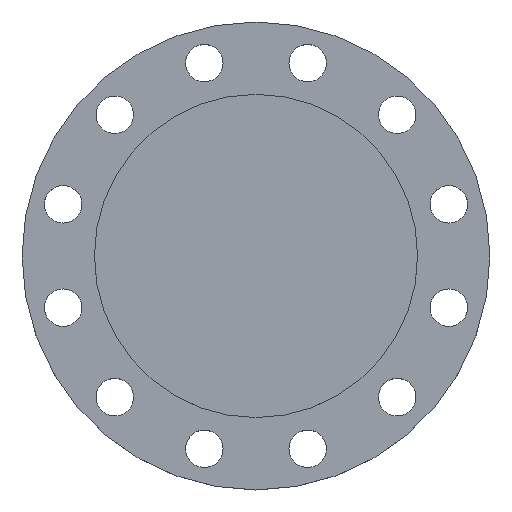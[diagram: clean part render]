
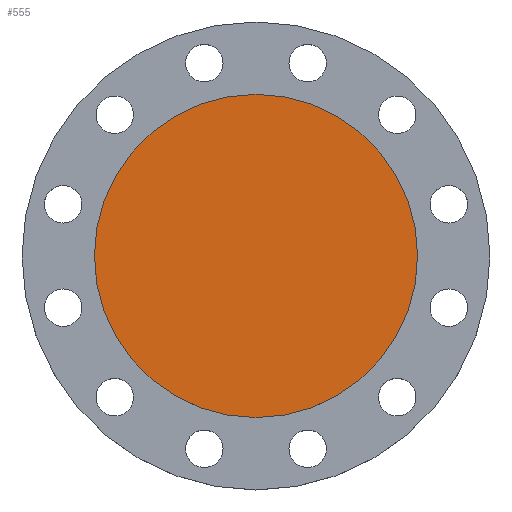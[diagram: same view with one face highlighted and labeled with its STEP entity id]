
A CAD part, top view. The second image highlights one B-rep face of the part: STEP entity #555.
In plain terms, the highlighted planar face has unit normal (0, 0, 1).
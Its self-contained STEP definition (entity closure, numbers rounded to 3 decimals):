
#168 = AXIS2_PLACEMENT_3D ( 'NONE', #652, #653, #654 ) ;
#204 = AXIS2_PLACEMENT_3D ( 'NONE', #665, #664, #663 ) ;
#315 = AXIS2_PLACEMENT_3D ( 'NONE', #359, #356, #355 ) ;
#318 = CIRCLE ( 'NONE', #315, 129.5 ) ;
#355 = DIRECTION ( 'NONE',  ( -1., 0., 0. ) ) ;
#356 = DIRECTION ( 'NONE',  ( 0., 0., -1. ) ) ;
#359 = CARTESIAN_POINT ( 'NONE',  ( 0., 0., 0. ) ) ;
#416 = CARTESIAN_POINT ( 'NONE',  ( -129.5, 0., 0. ) ) ;
#474 = CIRCLE ( 'NONE', #204, 129.5 ) ;
#519 = CARTESIAN_POINT ( 'NONE',  ( 129.5, 0., 0. ) ) ;
#544 = EDGE_CURVE ( 'NONE', #829, #964, #474, .T. ) ;
#555 = ADVANCED_FACE ( 'NONE', ( #656 ), #655, .T. ) ;
#652 = CARTESIAN_POINT ( 'NONE',  ( 0., 0., 0. ) ) ;
#653 = DIRECTION ( 'NONE',  ( 0., 0., 1. ) ) ;
#654 = DIRECTION ( 'NONE',  ( 1., 0., 0. ) ) ;
#655 = PLANE ( 'NONE',  #168 ) ;
#656 = FACE_OUTER_BOUND ( 'NONE', #1072, .T. ) ;
#663 = DIRECTION ( 'NONE',  ( -1., 0., 0. ) ) ;
#664 = DIRECTION ( 'NONE',  ( 0., 0., -1. ) ) ;
#665 = CARTESIAN_POINT ( 'NONE',  ( 0., 0., 0. ) ) ;
#829 = VERTEX_POINT ( 'NONE', #519 ) ;
#835 = ORIENTED_EDGE ( 'NONE', *, *, #1024, .F. ) ;
#836 = ORIENTED_EDGE ( 'NONE', *, *, #544, .F. ) ;
#964 = VERTEX_POINT ( 'NONE', #416 ) ;
#1024 = EDGE_CURVE ( 'NONE', #964, #829, #318, .T. ) ;
#1072 = EDGE_LOOP ( 'NONE', ( #835, #836 ) ) ;
